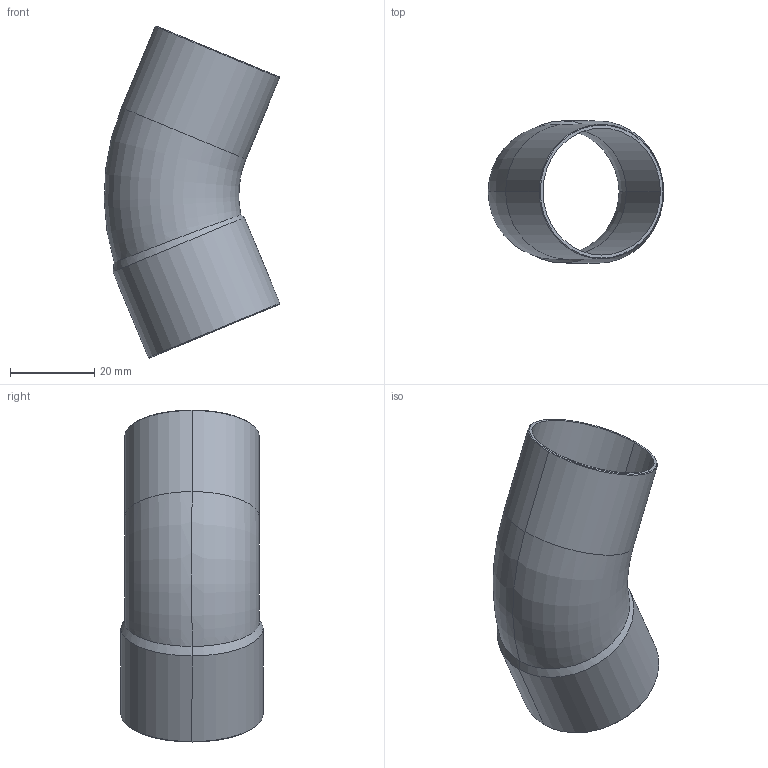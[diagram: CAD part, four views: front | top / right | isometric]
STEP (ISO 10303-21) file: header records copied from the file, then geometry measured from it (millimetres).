
FILE_DESCRIPTION((''),'2;1');
FILE_NAME('P:\Bouwmaten\z-maattekeningen 3D\5000\5040\1504032.stp','2005-10-05T11:20:26',('Kris'),(''),'Autodesk Inventor 8','Autodesk Inventor 8','');
FILE_SCHEMA(('AUTOMOTIVE_DESIGN { 1 0 10303 214 1 1 1 1 }'));
Length unit declared in the file: millimetre
Products named in the file (1): 1504032
Bounding box: 41.75 x 33.8 x 78.96 mm (x, y, z)
Volume: 6316.5 mm3; surface area: 14195.3 mm2
Topology: 1 solids, 1 shells, 24 faces, 50 edges, 28 vertices
Faces by surface type: cone 10, cylinder 8, torus 4, plane 2
Entity records: 729 total; most frequent: CARTESIAN_POINT 179, DIRECTION 124, ORIENTED_EDGE 100, AXIS2_PLACEMENT_3D 53, EDGE_CURVE 50, VERTEX_POINT 28, CIRCLE 28, EDGE_LOOP 26
